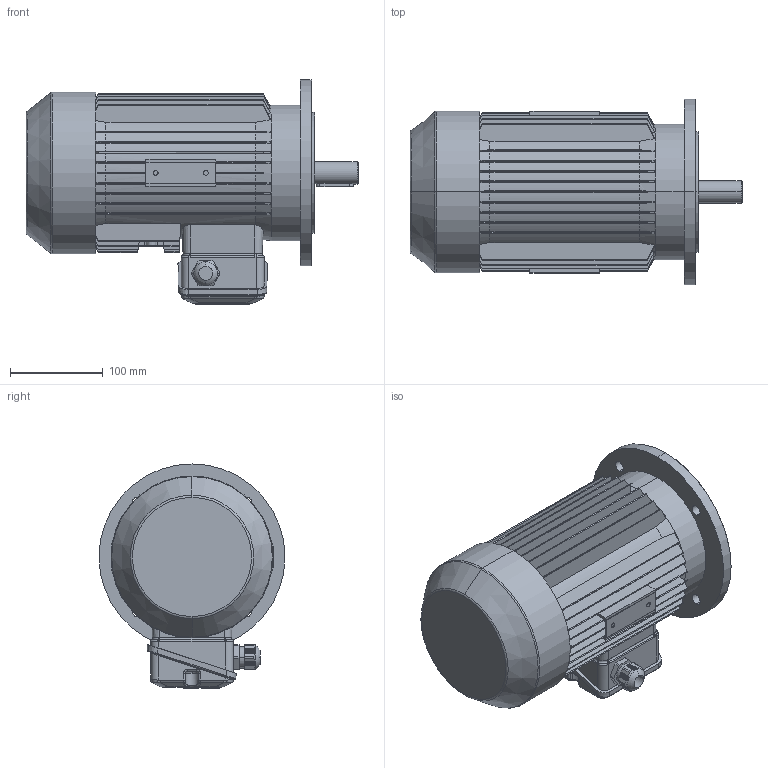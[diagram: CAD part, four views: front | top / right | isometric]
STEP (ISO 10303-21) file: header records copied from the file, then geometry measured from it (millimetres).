
FILE_DESCRIPTION (( 'STEP AP214' ), '1' );
FILE_NAME ('MAP90L6A IM3041 A200 FF165.STEP', '2021-03-04T13:22:58', ( '' ), ( '' ), 'SwSTEP 2.0', 'SolidWorks 2018', '' );
FILE_SCHEMA (( 'AUTOMOTIVE_DESIGN' ));
Length unit declared in the file: millimetre
Products named in the file (1): MAP90L6A IM3041 A200 FF165
Bounding box: 357 x 200 x 241 mm (x, y, z)
Volume: 6182031.7 mm3; surface area: 452322.5 mm2
Topology: 2 solids, 8 shells, 1215 faces, 3212 edges, 2046 vertices
Faces by surface type: plane 527, cylinder 289, bspline 180, cone 142, torus 75, sphere 2
Entity records: 49111 total; most frequent: CARTESIAN_POINT 21156, ORIENTED_EDGE 6420, DIRECTION 5066, EDGE_CURVE 3210, VERTEX_POINT 2046, AXIS2_PLACEMENT_3D 1792, VECTOR 1482, LINE 1482
